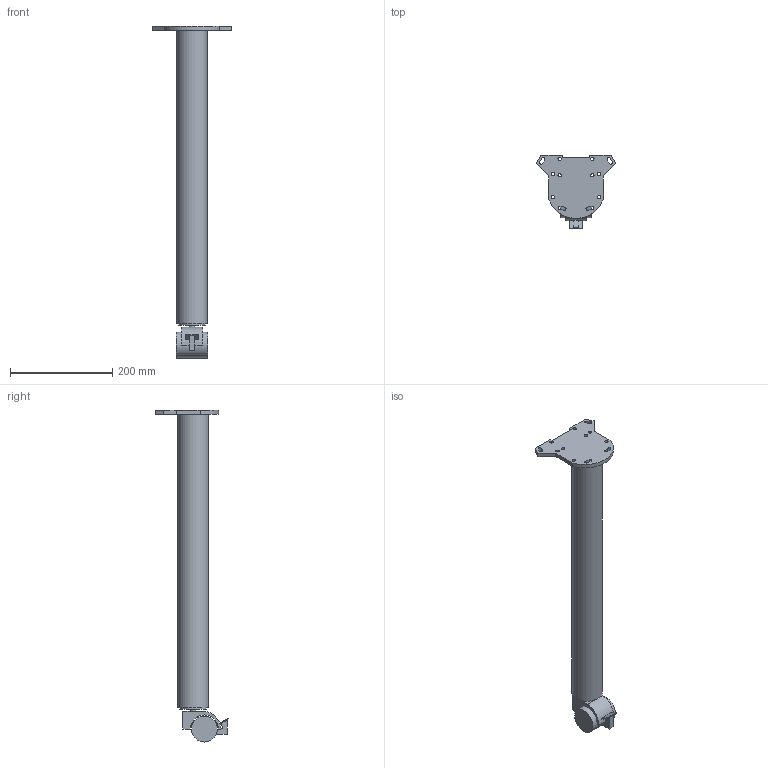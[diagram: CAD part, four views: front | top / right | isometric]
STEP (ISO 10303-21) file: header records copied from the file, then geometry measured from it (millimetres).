
FILE_DESCRIPTION( ( 'STEP AP214' ), '1' );
FILE_NAME( 'D:/Yug/2021/Desk_and_office_organisation/Correction in table leg fixing/QC/70208.stp', '2021-08-10T12:53:37', ( '' ), ( '' ), ' ', 'PARTsolutions', ' ' );
FILE_SCHEMA( ( 'AUTOMOTIVE_DESIGN { 1 0 10303 214 1 1 1 1 }' ) );
Length unit declared in the file: millimetre
Products named in the file (3): 70208; _70208_1; _70201
Assembly tree (2 placements, depth 2):
  70208
    _70208_1
    _70201
Bounding box: 155.69 x 143.63 x 650 mm (x, y, z)
Volume: 1950629.9 mm3; surface area: 176518.3 mm2
Topology: 2 solids, 2 shells, 71 faces, 182 edges, 120 vertices
Faces by surface type: plane 46, cylinder 25
Full cylindrical faces by diameter (mm): 6.5 x8, 10 x1, 42 x1, 50.84 x1, 51.8 x1, 60 x1
Entity records: 2761 total; most frequent: DIRECTION 369, CARTESIAN_POINT 363, ORIENTED_EDGE 338, EDGE_CURVE 169, AXIS2_PLACEMENT_3D 126, VERTEX_POINT 120, LINE 117, VECTOR 117
